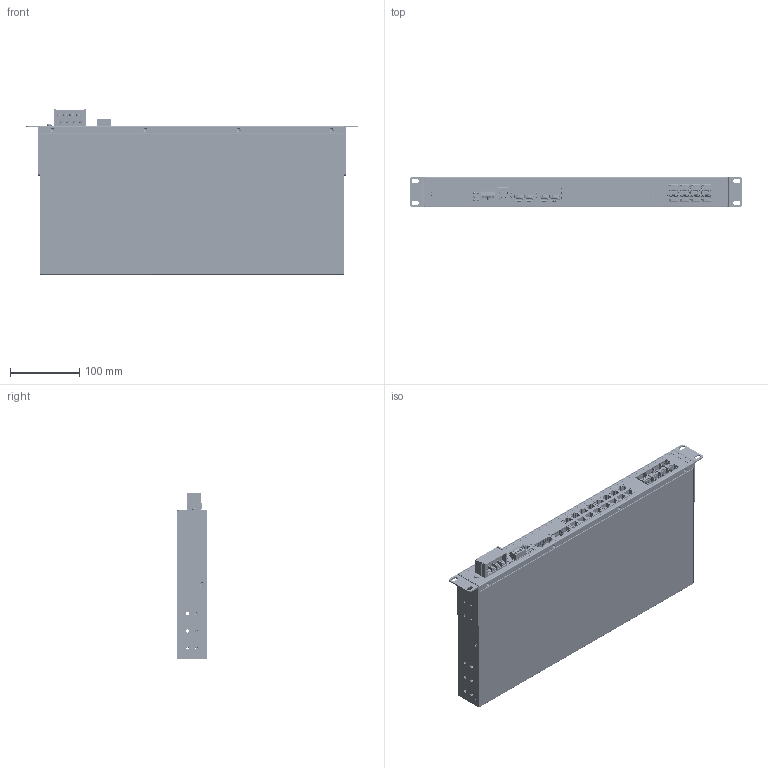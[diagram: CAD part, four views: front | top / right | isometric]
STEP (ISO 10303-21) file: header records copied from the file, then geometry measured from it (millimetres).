
FILE_DESCRIPTION(/* description */ ('STEP AP242 Edition 2','CAx-IF Rec.Pracs.---Representation and Presentation of Product Manufacturing Information (PMI)---4.0---2014-10-13','CAx-IF Rec.Pracs.---3D Tessellated Geometry---0.4---2014-09-14','2;1','CAx-IF Rec.Pracs.---User Defined Attributes---1.5---2016-08-15'),/* implementation_level */ '2;1');
FILE_NAME(/* name */ '6a70b827fd00e971379ce31d',/* time_stamp */ '2026-08-03T15:48:44Z',/* author */ (''),/* organization */ (''),/* preprocessor_version */ 'ST-DEVELOPER v20',/* originating_system */ 'ONSHAPE BY PTC INC, 1.218',/* authorisation */ ' ');
FILE_SCHEMA (('AP242_MANAGED_MODEL_BASED_3D_ENGINEERING_MIM_LF { 1 0 10303 442 3 1 4 }'));
Products named in the file (1016): ETH-R160804GXM-DC-1; Surface 633; Surface 181; Surface 54; Surface 697; Surface 864; Surface 571; Surface 234; Surface 551; Surface 222; Surface 706; Surface 686; Surface 224; Surface 716; Surface 282; Surface 843; Surface 438; Surface 193; Surface 629; Surface 786; Surface 48; Part 47; Surface 713; Surface 950; Surface 131; Surface 726; Surface 27; Surface 502; Surface 351; Surface 595; Surface 4; Surface 454; Surface 358; Surface 3; Surface 889; Surface 99; Surface 575; Surface 823; Surface 779; Surface 731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
Assembly tree (1015 placements, depth 2):
  ETH-R160804GXM-DC-1
    Surface 633
    Surface 181
    Surface 54
    Surface 697
    Surface 864
    Surface 571
    Surface 234
    Surface 551
    Surface 222
    Surface 706
    Surface 686
    Surface 224
    Surface 716
    Surface 282
    Surface 843
    Surface 438
    Surface 193
    Surface 629
    Surface 786
    Surface 48
    Part 47
    Surface 713
    Surface 950
    Surface 131
    Surface 726
    Surface 27
    Surface 502
    Surface 351
    Surface 595
    Surface 4
    Surface 454
    Surface 358
    Surface 3
    Surface 889
    Surface 99
    Surface 575
    Surface 823
    Surface 779
    Surface 731
    Surface 904
    Surface 812
    Surface 749
    Surface 69
    Surface 343
    Surface 753
    Surface 254
    Part 64
    Surface 783
    Part 49
    Surface 341
    Surface 233
    Surface 567
    Surface 387
    Surface 870
    Surface 168
    Surface 398
    Surface 139
    Surface 453
    Surface 137
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Bounding box: 480 x 44 x 239.1 mm (x, y, z)
Volume: 178077.6 mm3; surface area: 781965.5 mm2
Topology: 65 solids, 1045 shells, 56887 faces, 170662 edges, 114464 vertices
Faces by surface type: plane 39111, cylinder 14987, cone 2110, torus 435, bspline 139, sphere 105
Full cylindrical faces by diameter (mm): 0.609 x1, 0.7 x20, 0.8 x8, 1.2 x2, 1.75 x8, 1.9 x2, 2 x507, 2.15 x4, 2.459 x23, 2.495 x4, 2.5 x4, 3 x35, 3.242 x9, 3.3 x8, 3.5 x24, 3.783 x4, 3.99 x46, 4 x43, 4.2 x69, 4.5 x1, 5 x38, 5.92 x1, 6.8 x9, 6.86 x1, 7.8 x17, 26.5 x3
Entity records: 1955933 total; most frequent: CARTESIAN_POINT 417452, ORIENTED_EDGE 321091, DIRECTION 293569, EDGE_CURVE 169292, LINE 116927, VECTOR 116927, VERTEX_POINT 114290, AXIS2_PLACEMENT_3D 88321
